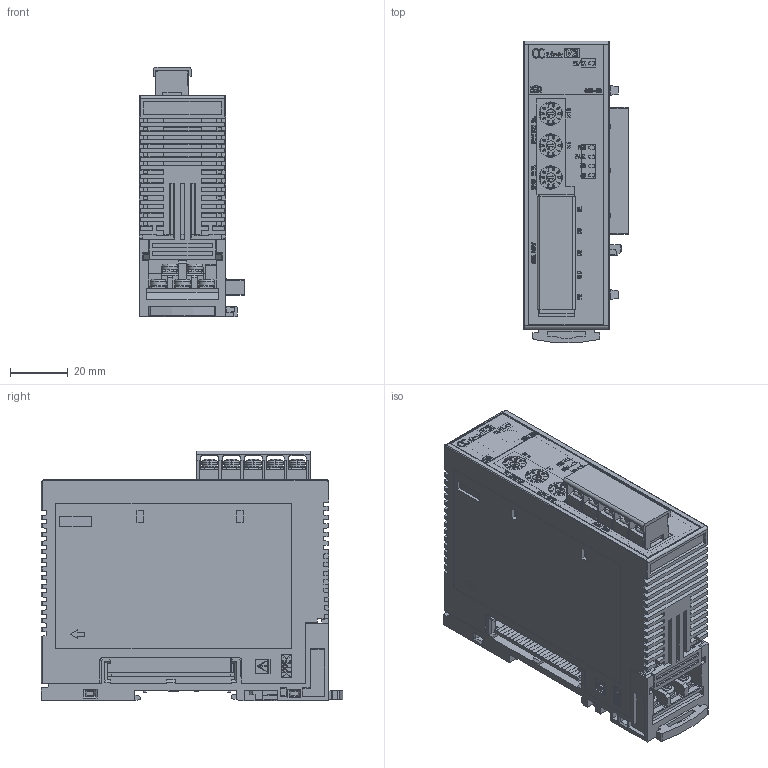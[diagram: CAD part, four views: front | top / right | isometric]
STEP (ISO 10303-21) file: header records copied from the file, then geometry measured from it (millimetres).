
FILE_DESCRIPTION (( 'STEP AP203' ), '1' );
FILE_NAME ('COM-MC(基本設計)_WEB.STEP', '2025-04-04T06:36:47', ( '' ), ( '' ), 'SwSTEP 2.0', 'SolidWorks 2021', '' );
FILE_SCHEMA (( 'CONFIG_CONTROL_DESIGN' ));
Products named in the file (5): SRZ(儀乕僗Assy乯_WEB; COM-MC(基本設計)_WEB; COM-MC(ケース Assy)_WEB; MM-200_カバー（C202）(5C)_WEB; KSRZ-54(1)_WEB
Assembly tree (4 placements, depth 2):
  COM-MC(基本設計)_WEB
    COM-MC(ケース Assy)_WEB
    SRZ(儀乕僗Assy乯_WEB
    KSRZ-54(1)_WEB
    MM-200_カバー（C202）(5C)_WEB
Bounding box: 36.65 x 104.76 x 86.75 mm (x, y, z)
Volume: 169321.7 mm3; surface area: 66332.7 mm2
Topology: 42 solids, 45 shells, 7062 faces, 19157 edges, 12525 vertices
Faces by surface type: plane 4638, bspline 1135, cylinder 1122, cone 59, sphere 58, torus 50
Entity records: 260578 total; most frequent: CARTESIAN_POINT 88936, ORIENTED_EDGE 38154, DIRECTION 30811, EDGE_CURVE 19077, LINE 14119, VECTOR 14119, VERTEX_POINT 12493, AXIS2_PLACEMENT_3D 8346
